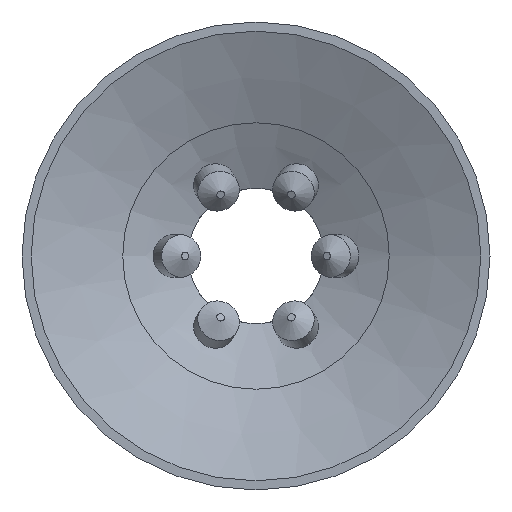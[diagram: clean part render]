
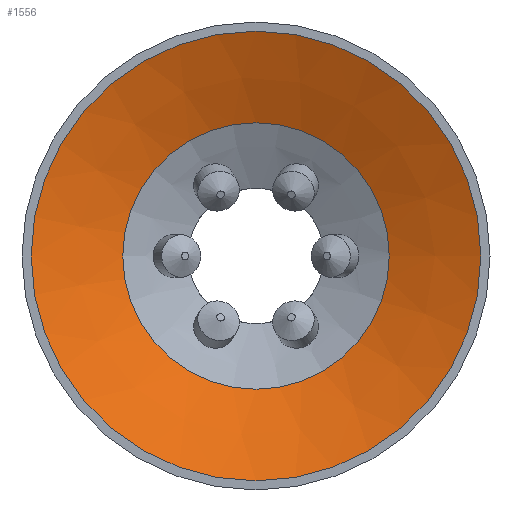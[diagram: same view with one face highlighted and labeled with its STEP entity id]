
A CAD part, front view. The second image highlights one B-rep face of the part: STEP entity #1556.
In plain terms, the highlighted conical face has half-angle 66.544 degrees and reference radius 24.882 mm.
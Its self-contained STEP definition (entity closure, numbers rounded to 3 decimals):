
#27 = DIRECTION ( 'NONE',  ( 0., -1., 0. ) ) ;
#42 = DIRECTION ( 'NONE',  ( 1., 0., 0. ) ) ;
#119 = AXIS2_PLACEMENT_3D ( 'NONE', #1183, #27, #1335 ) ;
#124 = CARTESIAN_POINT ( 'NONE',  ( 149.376, 25.077, 0. ) ) ;
#289 = CARTESIAN_POINT ( 'NONE',  ( 124.494, 29.473, 0. ) ) ;
#403 = CIRCLE ( 'NONE', #841, 24.882 ) ;
#551 = DIRECTION ( 'NONE',  ( 0., -1., 0. ) ) ;
#629 = EDGE_CURVE ( 'NONE', #886, #886, #1033, .T. ) ;
#651 = VERTEX_POINT ( 'NONE', #124 ) ;
#752 = EDGE_CURVE ( 'NONE', #651, #651, #403, .T. ) ;
#762 = EDGE_LOOP ( 'NONE', ( #777 ) ) ;
#772 = CARTESIAN_POINT ( 'NONE',  ( 139.244, 29.473, 0. ) ) ;
#777 = ORIENTED_EDGE ( 'NONE', *, *, #629, .F. ) ;
#781 = FACE_BOUND ( 'NONE', #762, .T. ) ;
#805 = DIRECTION ( 'NONE',  ( 1., 0., 0. ) ) ;
#841 = AXIS2_PLACEMENT_3D ( 'NONE', #1586, #1201, #42 ) ;
#886 = VERTEX_POINT ( 'NONE', #772 ) ;
#1033 = CIRCLE ( 'NONE', #1471, 14.75 ) ;
#1060 = ORIENTED_EDGE ( 'NONE', *, *, #752, .T. ) ;
#1144 = CONICAL_SURFACE ( 'NONE', #119, 24.882, 1.161 ) ;
#1183 = CARTESIAN_POINT ( 'NONE',  ( 124.494, 25.077, 0. ) ) ;
#1201 = DIRECTION ( 'NONE',  ( 0., -1., 0. ) ) ;
#1295 = FACE_OUTER_BOUND ( 'NONE', #1497, .T. ) ;
#1335 = DIRECTION ( 'NONE',  ( 1., 0., 0. ) ) ;
#1471 = AXIS2_PLACEMENT_3D ( 'NONE', #289, #551, #805 ) ;
#1497 = EDGE_LOOP ( 'NONE', ( #1060 ) ) ;
#1556 = ADVANCED_FACE ( 'NONE', ( #781, #1295 ), #1144, .F. ) ;
#1586 = CARTESIAN_POINT ( 'NONE',  ( 124.494, 25.077, 0. ) ) ;
